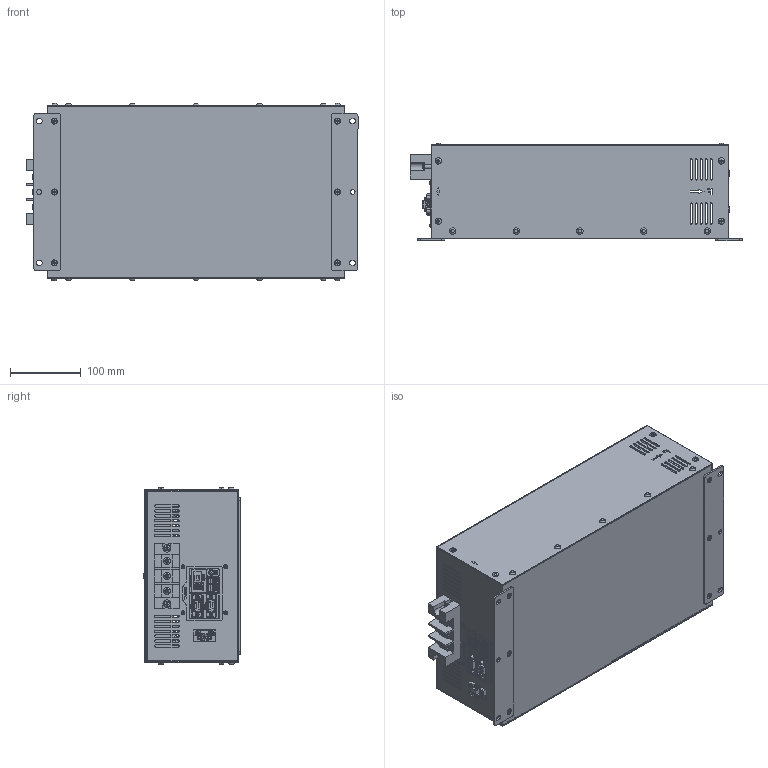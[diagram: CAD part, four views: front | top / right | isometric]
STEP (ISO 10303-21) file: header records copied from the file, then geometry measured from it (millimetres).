
FILE_DESCRIPTION(/* description */ ('','CAx-IF Rec.Pracs.---Representation and Presentation of Product Manufacturing Information (PMI)---4.0---2014-10-13'),/* implementation_level */ '2;1');
FILE_NAME(/* name */ 'H:\04_배터리_전기종\고부하용 배터리 케이스_3D\[NEW] VX3COM 고객용\VX3COM.stp',/* time_stamp */ '2023-02-27T11:34:07+09:00',/* author */ ('jjang'),/* organization */ (''),/* preprocessor_version */ 'ST-DEVELOPER v18.1',/* originating_system */ 'Autodesk Inventor 2021',/* authorisation */ '');
FILE_SCHEMA (('AP242_MANAGED_MODEL_BASED_3D_ENGINEERING_MIM_LF { 1 0 10303 442 1 1 4 }'));
Products named in the file (1): VX3COM_2023.02(UPDATED)_Shrinkwrap_1
Bounding box: 468 x 137.59 x 250.09 mm (x, y, z)
Volume: 711458.8 mm3; surface area: 905190.4 mm2
Topology: 7 solids, 7 shells, 4505 faces, 13473 edges, 9326 vertices
Faces by surface type: plane 2407, cylinder 1249, bspline 632, torus 129, cone 61, sphere 27
Full cylindrical faces by diameter (mm): 0.609 x1, 0.61 x27, 0.635 x9, 0.9 x6, 1.397 x9, 2.286 x9, 2.8 x8, 2.957 x4, 3 x2, 3.048 x4, 3.2 x4, 3.6 x10, 3.783 x2, 3.8 x8, 3.9 x2, 4 x31, 4.3 x12, 4.5 x8, 5 x17, 5.3 x20, 5.4 x2, 5.429 x2, 5.6 x4, 6 x2, 6.082 x1, 6.6 x2, 7.5 x6, 8 x1, 8.4 x12, 9 x10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
Entity records: 183986 total; most frequent: CARTESIAN_POINT 60136, ORIENTED_EDGE 26908, DIRECTION 22616, EDGE_CURVE 13454, VERTEX_POINT 9326, AXIS2_PLACEMENT_3D 7700, LINE 7216, VECTOR 7216
